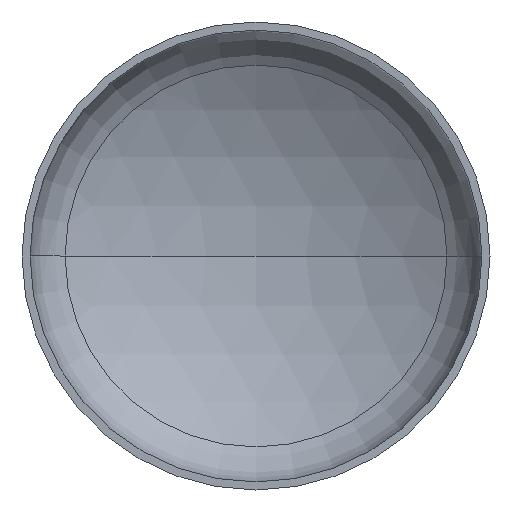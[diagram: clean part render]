
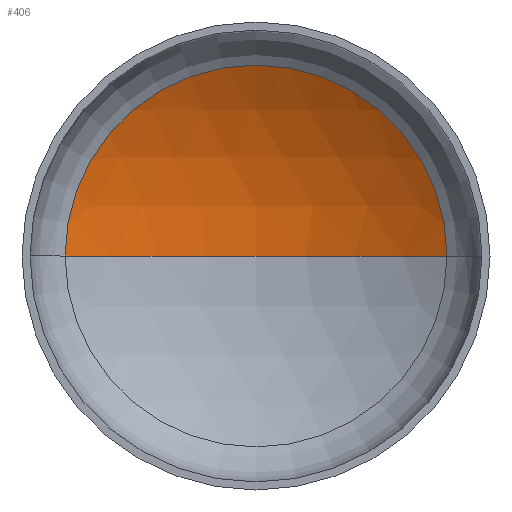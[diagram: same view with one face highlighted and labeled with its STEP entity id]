
A CAD part, front view. The second image highlights one B-rep face of the part: STEP entity #406.
In plain terms, the highlighted spherical face has radius 1440 mm.
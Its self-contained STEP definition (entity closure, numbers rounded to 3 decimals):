
#6 = ORIENTED_EDGE ( 'NONE', *, *, #391, .F. ) ;
#21 = CARTESIAN_POINT ( 'NONE',  ( 0., 336.569, 0. ) ) ;
#25 = AXIS2_PLACEMENT_3D ( 'NONE', #100, #201, #173 ) ;
#39 = AXIS2_PLACEMENT_3D ( 'NONE', #21, #258, #63 ) ;
#46 = SPHERICAL_SURFACE ( 'NONE', #383, 1440. ) ;
#53 = DIRECTION ( 'NONE',  ( 0., 0., -1. ) ) ;
#60 = CIRCLE ( 'NONE', #349, 1440. ) ;
#63 = DIRECTION ( 'NONE',  ( 1., 0., 0. ) ) ;
#64 = CARTESIAN_POINT ( 'NONE',  ( 0., -902.192, 0. ) ) ;
#90 = CIRCLE ( 'NONE', #25, 1440. ) ;
#100 = CARTESIAN_POINT ( 'NONE',  ( 0., -902.192, 0. ) ) ;
#101 = CARTESIAN_POINT ( 'NONE',  ( 734.215, 336.569, 0. ) ) ;
#112 = DIRECTION ( 'NONE',  ( 1., 0., 0. ) ) ;
#140 = ORIENTED_EDGE ( 'NONE', *, *, #333, .T. ) ;
#173 = DIRECTION ( 'NONE',  ( -1., 0., 0. ) ) ;
#193 = CARTESIAN_POINT ( 'NONE',  ( 0., 537.808, 0. ) ) ;
#195 = EDGE_LOOP ( 'NONE', ( #6, #261, #140 ) ) ;
#201 = DIRECTION ( 'NONE',  ( 0., 0., -1. ) ) ;
#222 = CARTESIAN_POINT ( 'NONE',  ( -734.215, 336.569, 0. ) ) ;
#243 = VERTEX_POINT ( 'NONE', #222 ) ;
#258 = DIRECTION ( 'NONE',  ( 0., -1., 0. ) ) ;
#259 = DIRECTION ( 'NONE',  ( -1., 0., 0. ) ) ;
#261 = ORIENTED_EDGE ( 'NONE', *, *, #346, .T. ) ;
#280 = VERTEX_POINT ( 'NONE', #193 ) ;
#289 = DIRECTION ( 'NONE',  ( 0., 0., 1. ) ) ;
#319 = CARTESIAN_POINT ( 'NONE',  ( 0., -902.192, 0. ) ) ;
#333 = EDGE_CURVE ( 'NONE', #340, #243, #339, .T. ) ;
#339 = CIRCLE ( 'NONE', #39, 734.215 ) ;
#340 = VERTEX_POINT ( 'NONE', #101 ) ;
#346 = EDGE_CURVE ( 'NONE', #280, #340, #90, .T. ) ;
#349 = AXIS2_PLACEMENT_3D ( 'NONE', #64, #289, #112 ) ;
#376 = FACE_OUTER_BOUND ( 'NONE', #195, .T. ) ;
#383 = AXIS2_PLACEMENT_3D ( 'NONE', #319, #53, #259 ) ;
#391 = EDGE_CURVE ( 'NONE', #280, #243, #60, .T. ) ;
#406 = ADVANCED_FACE ( 'NONE', ( #376 ), #46, .F. ) ;
